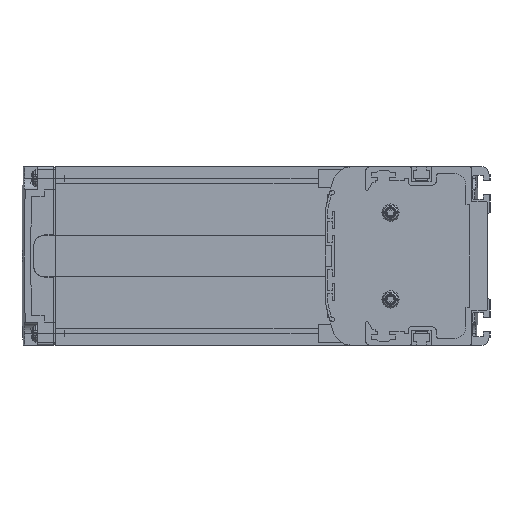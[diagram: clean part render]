
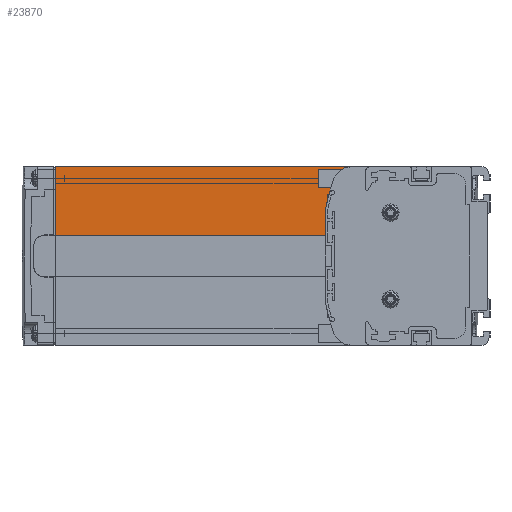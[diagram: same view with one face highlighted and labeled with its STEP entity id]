
A CAD part, left-side view. The second image highlights one B-rep face of the part: STEP entity #23870.
In plain terms, the highlighted planar face has unit normal (-1, 0, 0).
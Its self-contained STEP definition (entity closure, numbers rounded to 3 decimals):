
#1214=DIRECTION('',(0.,-1.,0.));
#1215=VECTOR('',#1214,0.571);
#1216=CARTESIAN_POINT('',(3.,71.,27.));
#1217=LINE('',#1216,#1215);
#1226=DIRECTION('',(0.,0.,1.));
#1227=VECTOR('',#1226,2.224);
#1228=CARTESIAN_POINT('',(3.,71.,24.776));
#1229=LINE('',#1228,#1227);
#1246=DIRECTION('',(0.,0.,-1.));
#1247=VECTOR('',#1246,29.9);
#1248=CARTESIAN_POINT('',(3.,190.,39.));
#1249=LINE('',#1248,#1247);
#5371=DIRECTION('',(0.,-1.,0.));
#5372=VECTOR('',#5371,129.245);
#5373=CARTESIAN_POINT('',(3.,190.,39.));
#5374=LINE('',#5373,#5372);
#6645=DIRECTION('',(0.,0.,-1.));
#6646=VECTOR('',#6645,10.723);
#6647=CARTESIAN_POINT('',(3.,72.,19.823));
#6648=LINE('',#6647,#6646);
#6661=CARTESIAN_POINT('',(3.,70.,19.823));
#6662=DIRECTION('',(1.,0.,0.));
#6663=DIRECTION('',(0.,1.,0.));
#6664=AXIS2_PLACEMENT_3D('',#6661,#6662,#6663);
#6670=CARTESIAN_POINT('',(3.,-6.765,6.));
#6671=DIRECTION('',(1.,0.,0.));
#6672=DIRECTION('',(0.,0.984,0.177));
#6673=AXIS2_PLACEMENT_3D('',#6670,#6671,#6672);
#6675=CARTESIAN_POINT('',(3.,-6.765,6.));
#6676=DIRECTION('',(1.,0.,0.));
#6677=DIRECTION('',(0.,0.965,0.263));
#6678=AXIS2_PLACEMENT_3D('',#6675,#6676,#6677);
#6684=CARTESIAN_POINT('',(3.,60.755,31.));
#6685=DIRECTION('',(-1.,0.,0.));
#6686=DIRECTION('',(0.,0.,1.));
#6687=AXIS2_PLACEMENT_3D('',#6684,#6685,#6686);
#11581=DIRECTION('',(0.,-1.,0.));
#11582=VECTOR('',#11581,118.);
#11583=CARTESIAN_POINT('',(3.,190.,9.1));
#11584=LINE('',#11583,#11582);
#17788=CARTESIAN_POINT('',(3.,190.,39.));
#17789=VERTEX_POINT('',#17788);
#17790=CARTESIAN_POINT('',(3.,190.,9.1));
#17791=VERTEX_POINT('',#17790);
#17820=CARTESIAN_POINT('',(3.,71.,27.));
#17822=VERTEX_POINT('',#17820);
#21850=CARTESIAN_POINT('',(3.,70.429,27.));
#21852=VERTEX_POINT('',#21850);
#21859=CARTESIAN_POINT('',(3.,71.,24.776));
#21861=VERTEX_POINT('',#21859);
#21869=CARTESIAN_POINT('',(3.,72.,9.1));
#21870=VERTEX_POINT('',#21869);
#21879=CARTESIAN_POINT('',(3.,72.,19.823));
#21880=CARTESIAN_POINT('',(3.,71.968,20.177));
#21881=VERTEX_POINT('',#21879);
#21882=VERTEX_POINT('',#21880);
#21883=CARTESIAN_POINT('',(3.,68.257,33.778));
#21884=VERTEX_POINT('',#21883);
#21885=CARTESIAN_POINT('',(3.,60.755,39.));
#21886=VERTEX_POINT('',#21885);
#23845=CARTESIAN_POINT('',(3.,105.,24.05));
#23846=DIRECTION('',(1.,0.,0.));
#23847=DIRECTION('',(0.,0.,1.));
#23848=AXIS2_PLACEMENT_3D('',#23845,#23846,#23847);
#23849=PLANE('',#23848);
#23851=ORIENTED_EDGE('',*,*,#23850,.F.);
#23853=ORIENTED_EDGE('',*,*,#23852,.T.);
#23855=ORIENTED_EDGE('',*,*,#23854,.F.);
#23857=ORIENTED_EDGE('',*,*,#23856,.F.);
#23859=ORIENTED_EDGE('',*,*,#23858,.T.);
#23861=ORIENTED_EDGE('',*,*,#23860,.T.);
#23863=ORIENTED_EDGE('',*,*,#23862,.F.);
#23864=ORIENTED_EDGE('',*,*,#23794,.F.);
#23865=ORIENTED_EDGE('',*,*,#23812,.F.);
#23867=ORIENTED_EDGE('',*,*,#23866,.F.);
#23868=EDGE_LOOP('',(#23851,#23853,#23855,#23857,#23859,#23861,#23863,#23864,
#23865,#23867));
#23869=FACE_OUTER_BOUND('',#23868,.F.);
#23870=ADVANCED_FACE('',(#23869),#23849,.F.);
#6665=CIRCLE('',#6664,2.);
#6674=CIRCLE('',#6673,80.);
#6679=CIRCLE('',#6678,80.);
#6688=CIRCLE('',#6687,8.);
#23794=EDGE_CURVE('',#17822,#21852,#1217,.T.);
#23812=EDGE_CURVE('',#21861,#17822,#1229,.T.);
#23850=EDGE_CURVE('',#21881,#21882,#6665,.T.);
#23852=EDGE_CURVE('',#21881,#21870,#6648,.T.);
#23854=EDGE_CURVE('',#17791,#21870,#11584,.T.);
#23856=EDGE_CURVE('',#17789,#17791,#1249,.T.);
#23858=EDGE_CURVE('',#17789,#21886,#5374,.T.);
#23860=EDGE_CURVE('',#21886,#21884,#6688,.T.);
#23862=EDGE_CURVE('',#21852,#21884,#6679,.T.);
#23866=EDGE_CURVE('',#21882,#21861,#6674,.T.);
